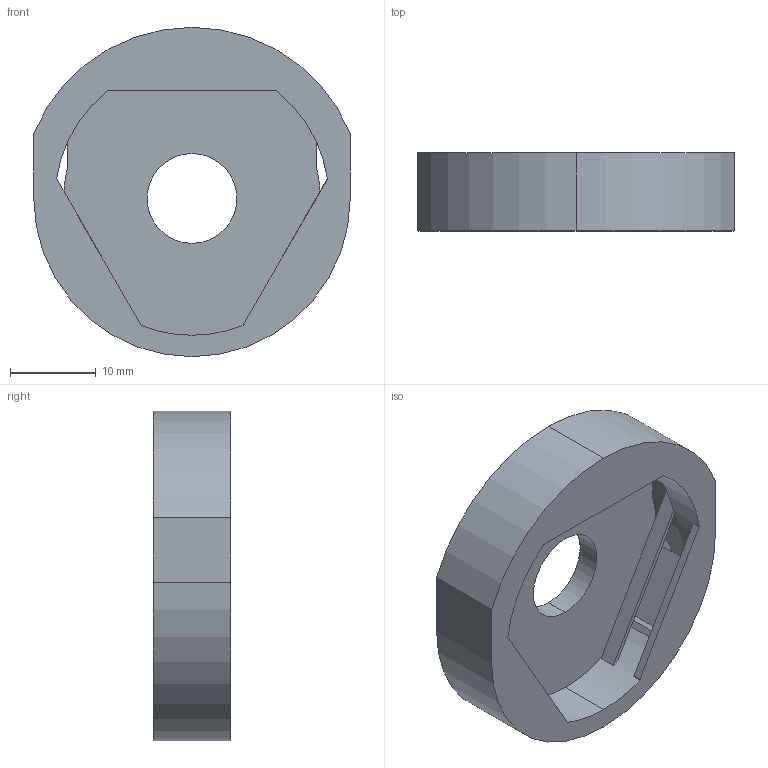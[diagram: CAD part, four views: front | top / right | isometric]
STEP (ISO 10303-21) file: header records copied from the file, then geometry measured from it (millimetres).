
FILE_DESCRIPTION(('Open CASCADE Model'),'2;1');
FILE_NAME('optical-window-support.step','2026-11-14T14:29:28',('Author') ,('Open CASCADE'),'Open CASCADE STEP processor 8.0','Open CASCADE 8.0' ,'Unknown');
FILE_SCHEMA(('AP242_MANAGED_MODEL_BASED_3D_ENGINEERING_MIM_LF {1 0 10303 442 1 1 4 }' ));
Length unit declared in the file: millimetre
Products named in the file (1): Optical Window Support
Bounding box: 37 x 9.11 x 38.5 mm (x, y, z)
Volume: 4556.1 mm3; surface area: 4819.8 mm2
Topology: 1 solids, 1 shells, 99 faces, 285 edges, 185 vertices
Faces by surface type: plane 77, cylinder 20, bspline 2
Entity records: 7722 total; most frequent: CARTESIAN_POINT 2110, DIRECTION 1021, LINE 671, VECTOR 671, ORIENTED_EDGE 570, PCURVE 570, DEFINITIONAL_REPRESENTATION 570, EDGE_CURVE 285
